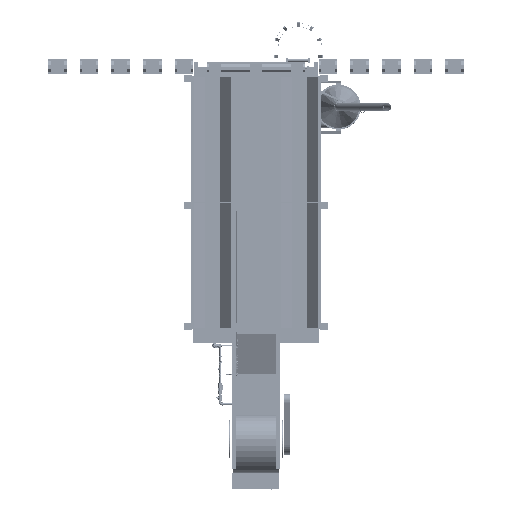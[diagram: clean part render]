
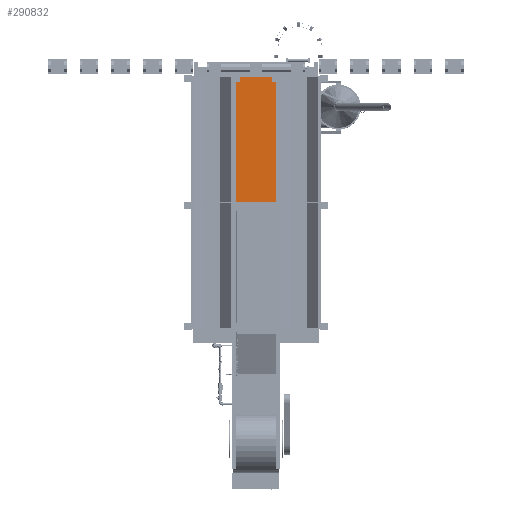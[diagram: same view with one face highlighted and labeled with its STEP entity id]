
A CAD part, front view. The second image highlights one B-rep face of the part: STEP entity #290832.
In plain terms, the highlighted planar face has unit normal (0, -1, 0) as drawn and (0, 0, -1) by its records, which use the part's own axes.
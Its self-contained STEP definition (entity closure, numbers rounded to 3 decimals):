
#43761=FACE_OUTER_BOUND('',#60380,.T.);
#60380=EDGE_LOOP('',(#197787,#197788,#197789,#197790));
#78941=LINE('',#412115,#102942);
#78944=LINE('',#412121,#102945);
#79010=LINE('',#412259,#103011);
#79011=LINE('',#412260,#103012);
#102942=VECTOR('',#335502,0.394);
#102945=VECTOR('',#335507,0.394);
#103011=VECTOR('',#335597,0.394);
#103012=VECTOR('',#335598,0.394);
#126872=VERTEX_POINT('',#412108);
#126875=VERTEX_POINT('',#412113);
#126876=VERTEX_POINT('',#412117);
#126937=VERTEX_POINT('',#412258);
#154445=EDGE_CURVE('',#126875,#126872,#78941,.T.);
#154448=EDGE_CURVE('',#126872,#126876,#78944,.T.);
#154514=EDGE_CURVE('',#126937,#126876,#79010,.T.);
#154515=EDGE_CURVE('',#126937,#126875,#79011,.T.);
#197787=ORIENTED_EDGE('',*,*,#154514,.T.);
#197788=ORIENTED_EDGE('',*,*,#154448,.F.);
#197789=ORIENTED_EDGE('',*,*,#154445,.F.);
#197790=ORIENTED_EDGE('',*,*,#154515,.F.);
#283230=PLANE('',#308945);
#290832=ADVANCED_FACE('',(#43761),#283230,.F.);
#308945=AXIS2_PLACEMENT_3D('',#412257,#335595,#335596);
#335502=DIRECTION('',(0.,-1.,0.));
#335507=DIRECTION('',(1.,0.,0.));
#335595=DIRECTION('center_axis',(0.,0.,1.));
#335596=DIRECTION('ref_axis',(1.,0.,0.));
#335597=DIRECTION('',(0.,-1.,0.));
#335598=DIRECTION('',(-1.,0.,0.));
#412108=CARTESIAN_POINT('',(-288.,-47.25,0.));
#412113=CARTESIAN_POINT('',(-288.,47.25,0.));
#412115=CARTESIAN_POINT('',(-288.,47.25,0.));
#412117=CARTESIAN_POINT('',(-192.004,-47.25,0.));
#412121=CARTESIAN_POINT('',(-288.,-47.25,0.));
#412257=CARTESIAN_POINT('Origin',(-144.,0.,0.));
#412258=CARTESIAN_POINT('',(-192.004,47.25,0.));
#412259=CARTESIAN_POINT('',(-192.004,2.638,0.));
#412260=CARTESIAN_POINT('',(0.,47.25,0.));
